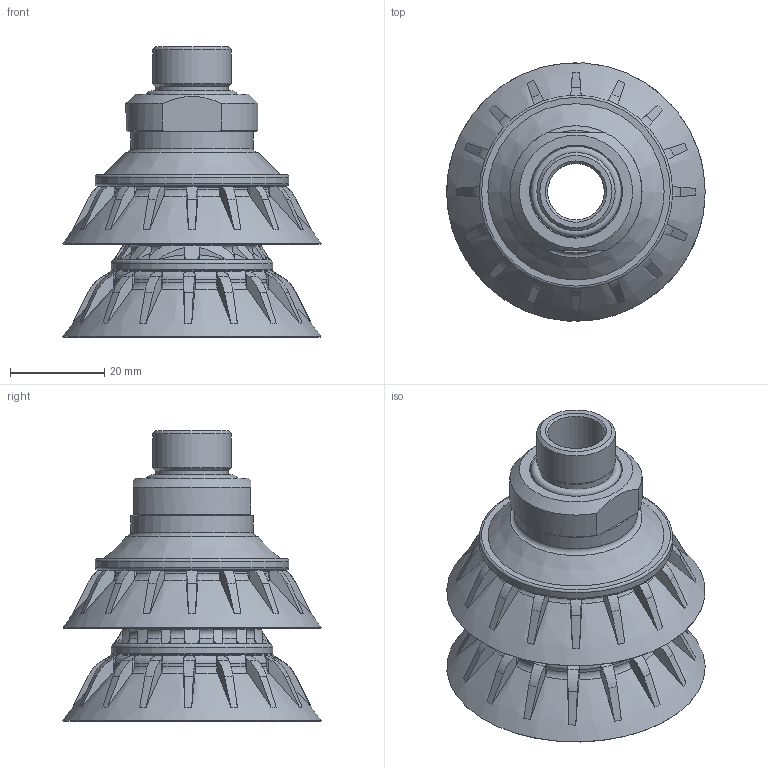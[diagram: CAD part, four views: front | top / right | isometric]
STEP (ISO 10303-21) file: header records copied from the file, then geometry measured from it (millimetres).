
FILE_DESCRIPTION( ( 'Unknown' ), '1' );
FILE_NAME( 'C:/Documents and Settings/owner/官帕 拳搁/叼膏怜/3D/2013.12.19 概流 Cup/荤夯 - B1.5/B2.5-40-X55-S-A-38M.stp', 'Unknown', ( 'Unknown' ), ( 'Unknown' ), 'XStep 1.0', 'Unknown', ' ' );
FILE_SCHEMA( ( 'automotive_design' ) );
Length unit declared in the file: millimetre
Products named in the file (6): Assem1; B2.5-40; B1.5-40-38M; 38M-Oring; B2.5-40-stopperA_20131004; B2.5-40-X55
Bounding box: 54.79 x 54.8 x 61.54 mm (x, y, z)
Volume: 37415.3 mm3; surface area: 47093.5 mm2
Topology: 10 solids, 10 shells, 1308 faces, 3552 edges, 2248 vertices
Faces by surface type: cylinder 364, plane 344, torus 304, cone 164, bspline 132
Full cylindrical faces by diameter (mm): 12 x2, 14 x2, 15.3 x2, 16.6 x2, 18 x4, 19.3 x2, 21 x4, 21.5 x4, 22 x2, 24 x2, 24.831 x2, 26 x2, 27.821 x2, 32 x2, 34.2 x2, 41 x4
Entity records: 28200 total; most frequent: CARTESIAN_POINT 13834, ORIENTED_EDGE 3342, DIRECTION 2384, EDGE_CURVE 1671, VERTEX_POINT 1114, AXIS2_PLACEMENT_3D 1051, B_SPLINE_CURVE_WITH_KNOTS 932, EDGE_LOOP 749
